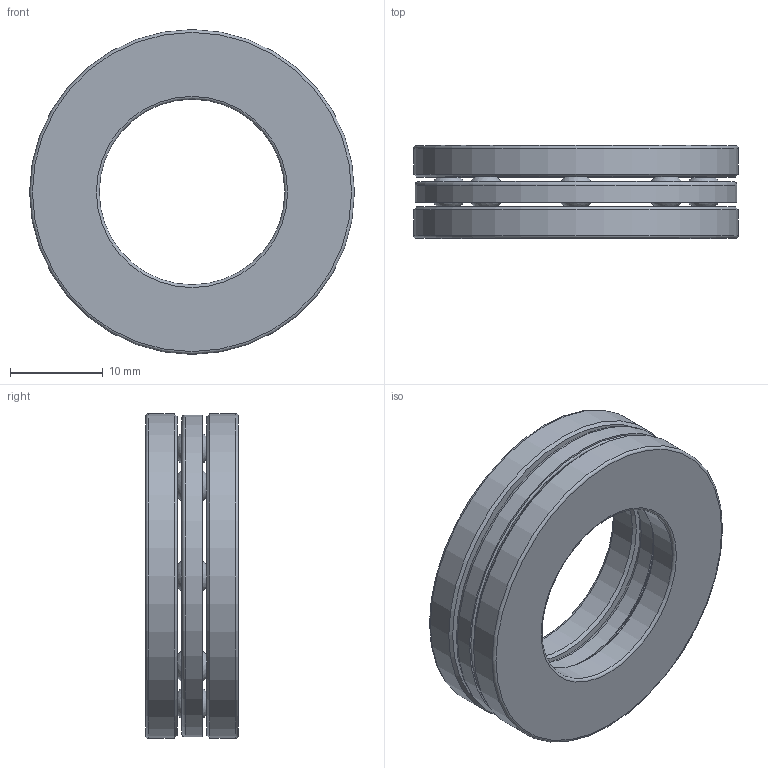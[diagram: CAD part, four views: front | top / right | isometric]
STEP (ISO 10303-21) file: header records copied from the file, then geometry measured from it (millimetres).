
FILE_DESCRIPTION(/* description */ (''),/* implementation_level */ '2;1');
FILE_NAME(/* name */ 'D:\moje\parametrické\511--\511--_\51104.stp',/* time_stamp */ '2016-08-17T07:18:51+02:00',/* author */ ('OUBALASKO'),/* organization */ (''),/* preprocessor_version */ 'ST-DEVELOPER v15.6',/* originating_system */ 'Autodesk Inventor 2015',/* authorisation */ '');
FILE_SCHEMA (('AUTOMOTIVE_DESIGN { 1 0 10303 214 3 1 1 }'));
Length unit declared in the file: millimetre
Products named in the file (7): 51104-HK; 51104-TK; 51104-ball; 51104-cage01; 51104-cage02; 51104-cage; 51104
Assembly tree (13 placements, depth 3):
  51104
    51104-HK
    51104-TK
    51104-ball  x8
    51104-cage
      51104-cage01
      51104-cage02
Bounding box: 35 x 10 x 35 mm (x, y, z)
Volume: 4694 mm3; surface area: 6886.5 mm2
Topology: 12 solids, 12 shells, 68 faces, 130 edges, 92 vertices
Faces by surface type: sphere 24, plane 14, torus 14, cylinder 12, cone 4
Full cylindrical faces by diameter (mm): 20 x1, 21 x1, 21.299 x1, 21.688 x1, 21.888 x1, 22.277 x1, 33.723 x1, 34.112 x1, 34.312 x1, 34.701 x1, 35 x2
Entity records: 1672 total; most frequent: DIRECTION 316, CARTESIAN_POINT 236, AXIS2_PLACEMENT_3D 158, ORIENTED_EDGE 154, EDGE_LOOP 153, FACE_BOUND 92, VERTEX_POINT 78, CIRCLE 77
